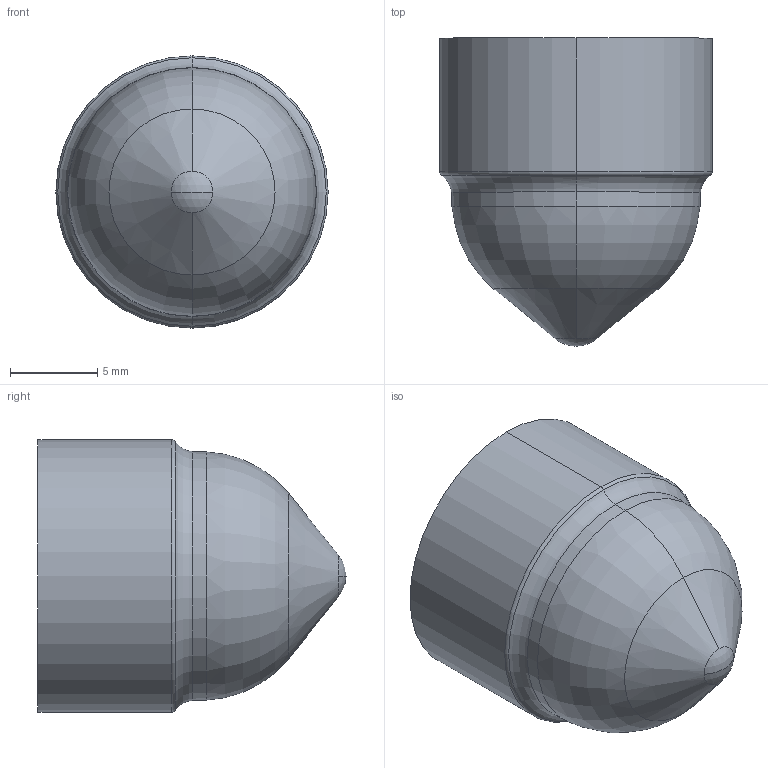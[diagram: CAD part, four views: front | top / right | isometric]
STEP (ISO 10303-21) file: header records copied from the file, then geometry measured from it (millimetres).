
FILE_DESCRIPTION (( 'STEP AP214' ), '1' );
FILE_NAME ('NORDSONEFD-7012319 PISTON O 10CC OR FLAT.STEP', '2021-01-08T12:59:57', ( '' ), ( '' ), 'SwSTEP 2.0', 'SolidWorks 2020', '' );
FILE_SCHEMA (( 'AUTOMOTIVE_DESIGN' ));
Length unit declared in the file: inch
Products named in the file (1): NORDSONEFD-7012319 PISTON O 10CC OR FLAT
Bounding box: 15.62 x 17.67 x 15.62 mm (x, y, z)
Volume: 538.8 mm3; surface area: 1492.8 mm2
Topology: 1 solids, 1 shells, 131 faces, 332 edges, 213 vertices
Faces by surface type: plane 43, bspline 36, cylinder 24, torus 18, cone 8, sphere 2
Entity records: 5759 total; most frequent: CARTESIAN_POINT 2780, ORIENTED_EDGE 664, DIRECTION 522, EDGE_CURVE 332, VERTEX_POINT 213, AXIS2_PLACEMENT_3D 194, EDGE_LOOP 141, LINE 134
